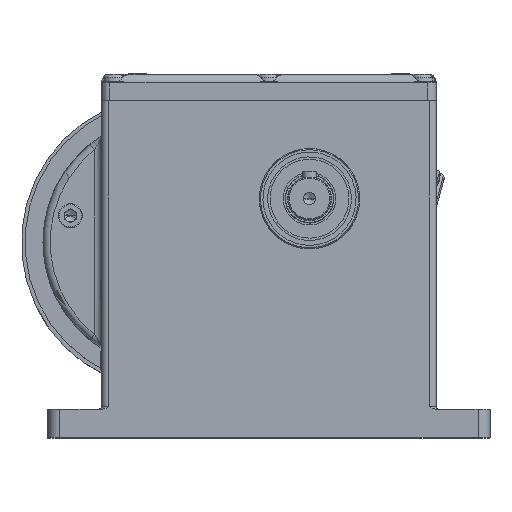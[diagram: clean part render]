
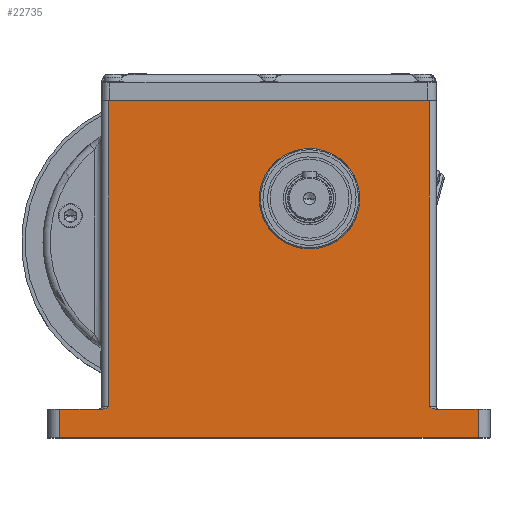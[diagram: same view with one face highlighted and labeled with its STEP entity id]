
A CAD part, top view. The second image highlights one B-rep face of the part: STEP entity #22735.
In plain terms, the highlighted planar face has unit normal (0, 0, 1).
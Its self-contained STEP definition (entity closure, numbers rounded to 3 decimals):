
#625 = ORIENTED_EDGE ( 'NONE', *, *, #22685, .T. ) ;
#1755 = FACE_BOUND ( 'NONE', #34454, .T. ) ;
#2166 = CARTESIAN_POINT ( 'NONE',  ( -26.48, -69.761, 40.25 ) ) ;
#2202 = DIRECTION ( 'NONE',  ( 0., -1., 0. ) ) ;
#3609 = ORIENTED_EDGE ( 'NONE', *, *, #25418, .T. ) ;
#4788 = CARTESIAN_POINT ( 'NONE',  ( 110.48, -69.761, 40.25 ) ) ;
#5616 = CIRCLE ( 'NONE', #13592, 21. ) ;
#5671 = EDGE_CURVE ( 'NONE', #36061, #30177, #11988, .T. ) ;
#5807 = CARTESIAN_POINT ( 'NONE',  ( -45.5, 60.5, 40.25 ) ) ;
#6515 = ORIENTED_EDGE ( 'NONE', *, *, #35741, .T. ) ;
#6662 = ORIENTED_EDGE ( 'NONE', *, *, #24866, .F. ) ;
#7619 = DIRECTION ( 'NONE',  ( 1., 0., 0. ) ) ;
#8139 = CARTESIAN_POINT ( 'NONE',  ( 129.5, 60.5, 40.25 ) ) ;
#8173 = VERTEX_POINT ( 'NONE', #21746 ) ;
#8399 = CARTESIAN_POINT ( 'NONE',  ( 111.646, -70., 40.25 ) ) ;
#8504 = LINE ( 'NONE', #12572, #41846 ) ;
#8628 = CARTESIAN_POINT ( 'NONE',  ( 109., -69., 40.25 ) ) ;
#9203 = ORIENTED_EDGE ( 'NONE', *, *, #13988, .T. ) ;
#11558 = CARTESIAN_POINT ( 'NONE',  ( -50.5, -70., 40.25 ) ) ;
#11746 = CARTESIAN_POINT ( 'NONE',  ( 111.646, -70., 40.25 ) ) ;
#11926 = VERTEX_POINT ( 'NONE', #43561 ) ;
#11988 = LINE ( 'NONE', #11558, #34520 ) ;
#12325 = CARTESIAN_POINT ( 'NONE',  ( -27.404, -70., 40.25 ) ) ;
#12572 = CARTESIAN_POINT ( 'NONE',  ( -25., 60.5, 40.25 ) ) ;
#12752 = CARTESIAN_POINT ( 'NONE',  ( -25., -69., 40.25 ) ) ;
#12784 = DIRECTION ( 'NONE',  ( -1., 0., 0. ) ) ;
#13592 = AXIS2_PLACEMENT_3D ( 'NONE', #28365, #42145, #28573 ) ;
#13726 = B_SPLINE_CURVE_WITH_KNOTS ( 'NONE', 3,
 ( #8399, #28536, #22203, #21990, #4788, #29411, #18585, #8628 ),
 .UNSPECIFIED., .F., .F.,
 ( 4, 2, 2, 4 ),
 ( 0., 0.001, 0.001, 0.003 ),
 .UNSPECIFIED. ) ;
#13988 = EDGE_CURVE ( 'NONE', #11926, #21313, #14414, .T. ) ;
#14124 = EDGE_CURVE ( 'NONE', #17936, #11926, #18489, .T. ) ;
#14414 = LINE ( 'NONE', #41342, #39634 ) ;
#14426 = VERTEX_POINT ( 'NONE', #32040 ) ;
#15964 = CARTESIAN_POINT ( 'NONE',  ( -28., 60.5, 40.25 ) ) ;
#16179 = CARTESIAN_POINT ( 'NONE',  ( -25., 59., 40.25 ) ) ;
#16360 = CARTESIAN_POINT ( 'NONE',  ( -26.706, -69.844, 40.25 ) ) ;
#16405 = ORIENTED_EDGE ( 'NONE', *, *, #36627, .F. ) ;
#16587 = VERTEX_POINT ( 'NONE', #17692 ) ;
#17692 = CARTESIAN_POINT ( 'NONE',  ( -45.5, -82., 40.25 ) ) ;
#17832 = VERTEX_POINT ( 'NONE', #37988 ) ;
#17936 = VERTEX_POINT ( 'NONE', #35055 ) ;
#17957 = CARTESIAN_POINT ( 'NONE',  ( -27.646, -70., 40.25 ) ) ;
#18067 = AXIS2_PLACEMENT_3D ( 'NONE', #15964, #32930, #12784 ) ;
#18489 = LINE ( 'NONE', #32293, #33189 ) ;
#18501 = B_SPLINE_CURVE_WITH_KNOTS ( 'NONE', 3,
 ( #12752, #26545, #26328, #2166, #16360, #26112, #12325, #23181 ),
 .UNSPECIFIED., .F., .F.,
 ( 4, 2, 2, 4 ),
 ( 0., 0.001, 0.002, 0.003 ),
 .UNSPECIFIED. ) ;
#18585 = CARTESIAN_POINT ( 'NONE',  ( 109.413, -69.238, 40.25 ) ) ;
#18885 = CARTESIAN_POINT ( 'NONE',  ( 59., 18., 40.25 ) ) ;
#19451 = CIRCLE ( 'NONE', #33172, 21. ) ;
#21313 = VERTEX_POINT ( 'NONE', #16179 ) ;
#21746 = CARTESIAN_POINT ( 'NONE',  ( 38., 18., 40.25 ) ) ;
#21990 = CARTESIAN_POINT ( 'NONE',  ( 110.706, -69.844, 40.25 ) ) ;
#22203 = CARTESIAN_POINT ( 'NONE',  ( 111.169, -69.963, 40.25 ) ) ;
#22370 = LINE ( 'NONE', #8139, #27491 ) ;
#22685 = EDGE_CURVE ( 'NONE', #21313, #30085, #8504, .T. ) ;
#22710 = DIRECTION ( 'NONE',  ( 0., 0., 1. ) ) ;
#22735 = ADVANCED_FACE ( 'NONE', ( #1755, #26353 ), #36317, .F. ) ;
#23181 = CARTESIAN_POINT ( 'NONE',  ( -27.646, -70., 40.25 ) ) ;
#24373 = DIRECTION ( 'NONE',  ( -1., 0., 0. ) ) ;
#24458 = VERTEX_POINT ( 'NONE', #31751 ) ;
#24866 = EDGE_CURVE ( 'NONE', #33194, #14426, #37261, .T. ) ;
#25101 = EDGE_CURVE ( 'NONE', #36061, #16587, #44449, .T. ) ;
#25374 = ORIENTED_EDGE ( 'NONE', *, *, #25101, .T. ) ;
#25418 = EDGE_CURVE ( 'NONE', #30085, #30177, #18501, .T. ) ;
#25764 = DIRECTION ( 'NONE',  ( 1., 0., 0. ) ) ;
#26112 = CARTESIAN_POINT ( 'NONE',  ( -27.169, -69.963, 40.25 ) ) ;
#26328 = CARTESIAN_POINT ( 'NONE',  ( -25.825, -69.477, 40.25 ) ) ;
#26353 = FACE_OUTER_BOUND ( 'NONE', #40642, .T. ) ;
#26545 = CARTESIAN_POINT ( 'NONE',  ( -25.412, -69.238, 40.25 ) ) ;
#26885 = DIRECTION ( 'NONE',  ( 1., 0., 0. ) ) ;
#27491 = VECTOR ( 'NONE', #36363, 1000. ) ;
#27687 = ORIENTED_EDGE ( 'NONE', *, *, #14124, .T. ) ;
#28365 = CARTESIAN_POINT ( 'NONE',  ( 59., 18., 40.25 ) ) ;
#28536 = CARTESIAN_POINT ( 'NONE',  ( 111.404, -70., 40.25 ) ) ;
#28573 = DIRECTION ( 'NONE',  ( 1., 0., 0. ) ) ;
#28872 = DIRECTION ( 'NONE',  ( 0., 1., 0. ) ) ;
#29411 = CARTESIAN_POINT ( 'NONE',  ( 109.825, -69.477, 40.25 ) ) ;
#30085 = VERTEX_POINT ( 'NONE', #30864 ) ;
#30177 = VERTEX_POINT ( 'NONE', #17957 ) ;
#30864 = CARTESIAN_POINT ( 'NONE',  ( -25., -69., 40.25 ) ) ;
#31195 = VECTOR ( 'NONE', #40843, 1000. ) ;
#31510 = EDGE_CURVE ( 'NONE', #33194, #17936, #13726, .T. ) ;
#31751 = CARTESIAN_POINT ( 'NONE',  ( 129.5, -82., 40.25 ) ) ;
#32040 = CARTESIAN_POINT ( 'NONE',  ( 129.5, -70., 40.25 ) ) ;
#32246 = EDGE_CURVE ( 'NONE', #17832, #8173, #19451, .T. ) ;
#32293 = CARTESIAN_POINT ( 'NONE',  ( 109., 60.5, 40.25 ) ) ;
#32702 = ORIENTED_EDGE ( 'NONE', *, *, #32246, .F. ) ;
#32731 = CARTESIAN_POINT ( 'NONE',  ( -45.5, -82., 40.25 ) ) ;
#32930 = DIRECTION ( 'NONE',  ( 0., 0., -1. ) ) ;
#33172 = AXIS2_PLACEMENT_3D ( 'NONE', #18885, #22710, #7619 ) ;
#33189 = VECTOR ( 'NONE', #28872, 1000. ) ;
#33194 = VERTEX_POINT ( 'NONE', #11746 ) ;
#34212 = EDGE_CURVE ( 'NONE', #24458, #14426, #22370, .T. ) ;
#34454 = EDGE_LOOP ( 'NONE', ( #32702, #16405 ) ) ;
#34520 = VECTOR ( 'NONE', #25764, 1000. ) ;
#35055 = CARTESIAN_POINT ( 'NONE',  ( 109., -69., 40.25 ) ) ;
#35671 = DIRECTION ( 'NONE',  ( 1., 0., 0. ) ) ;
#35741 = EDGE_CURVE ( 'NONE', #16587, #24458, #39289, .T. ) ;
#36061 = VERTEX_POINT ( 'NONE', #41496 ) ;
#36317 = PLANE ( 'NONE',  #18067 ) ;
#36363 = DIRECTION ( 'NONE',  ( 0., 1., 0. ) ) ;
#36627 = EDGE_CURVE ( 'NONE', #8173, #17832, #5616, .T. ) ;
#37261 = LINE ( 'NONE', #37494, #39820 ) ;
#37494 = CARTESIAN_POINT ( 'NONE',  ( -50.5, -70., 40.25 ) ) ;
#37988 = CARTESIAN_POINT ( 'NONE',  ( 80., 18., 40.25 ) ) ;
#39289 = LINE ( 'NONE', #32731, #43114 ) ;
#39634 = VECTOR ( 'NONE', #24373, 1000. ) ;
#39820 = VECTOR ( 'NONE', #26885, 1000. ) ;
#40642 = EDGE_LOOP ( 'NONE', ( #9203, #625, #3609, #44008, #25374, #6515, #41293, #6662, #43804, #27687 ) ) ;
#40843 = DIRECTION ( 'NONE',  ( 0., -1., 0. ) ) ;
#41293 = ORIENTED_EDGE ( 'NONE', *, *, #34212, .T. ) ;
#41342 = CARTESIAN_POINT ( 'NONE',  ( -25., 59., 40.25 ) ) ;
#41496 = CARTESIAN_POINT ( 'NONE',  ( -45.5, -70., 40.25 ) ) ;
#41846 = VECTOR ( 'NONE', #2202, 1000. ) ;
#42145 = DIRECTION ( 'NONE',  ( 0., 0., 1. ) ) ;
#43114 = VECTOR ( 'NONE', #35671, 1000. ) ;
#43561 = CARTESIAN_POINT ( 'NONE',  ( 109., 59., 40.25 ) ) ;
#43804 = ORIENTED_EDGE ( 'NONE', *, *, #31510, .T. ) ;
#44008 = ORIENTED_EDGE ( 'NONE', *, *, #5671, .F. ) ;
#44449 = LINE ( 'NONE', #5807, #31195 ) ;
